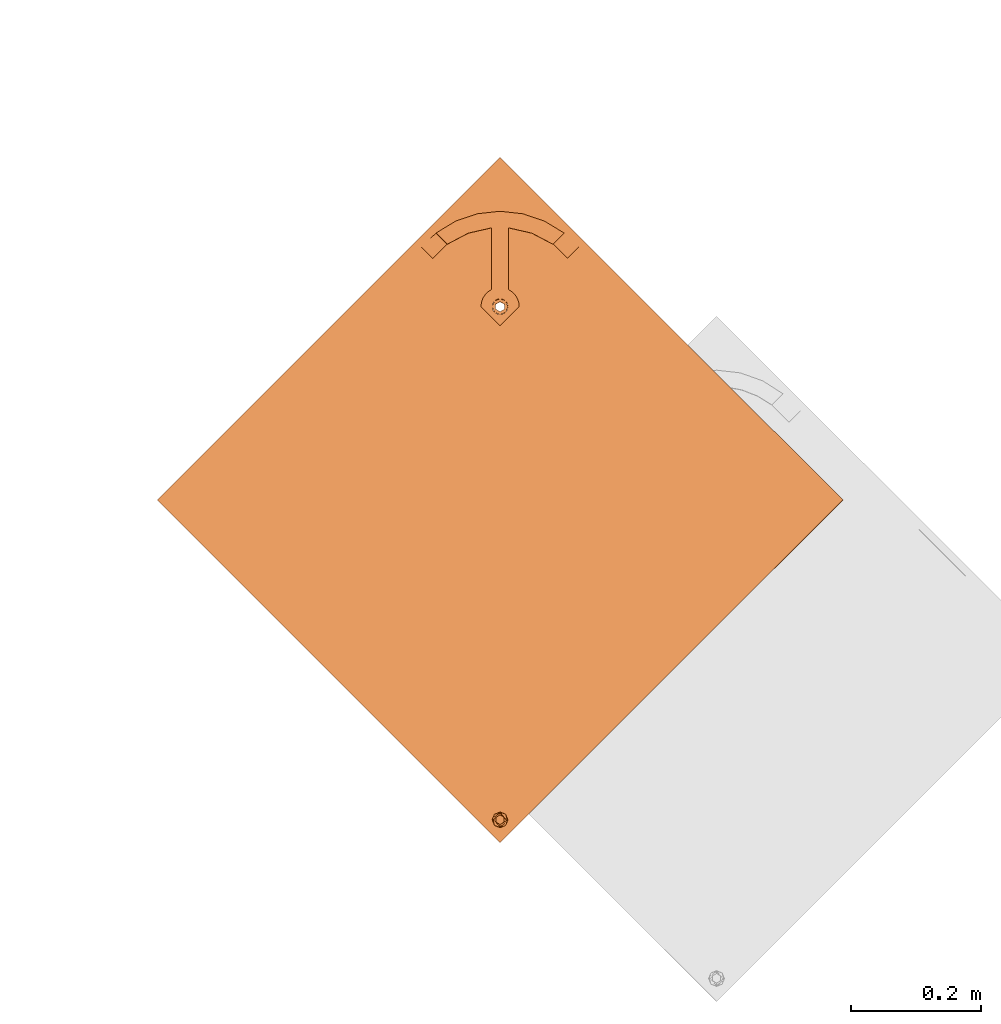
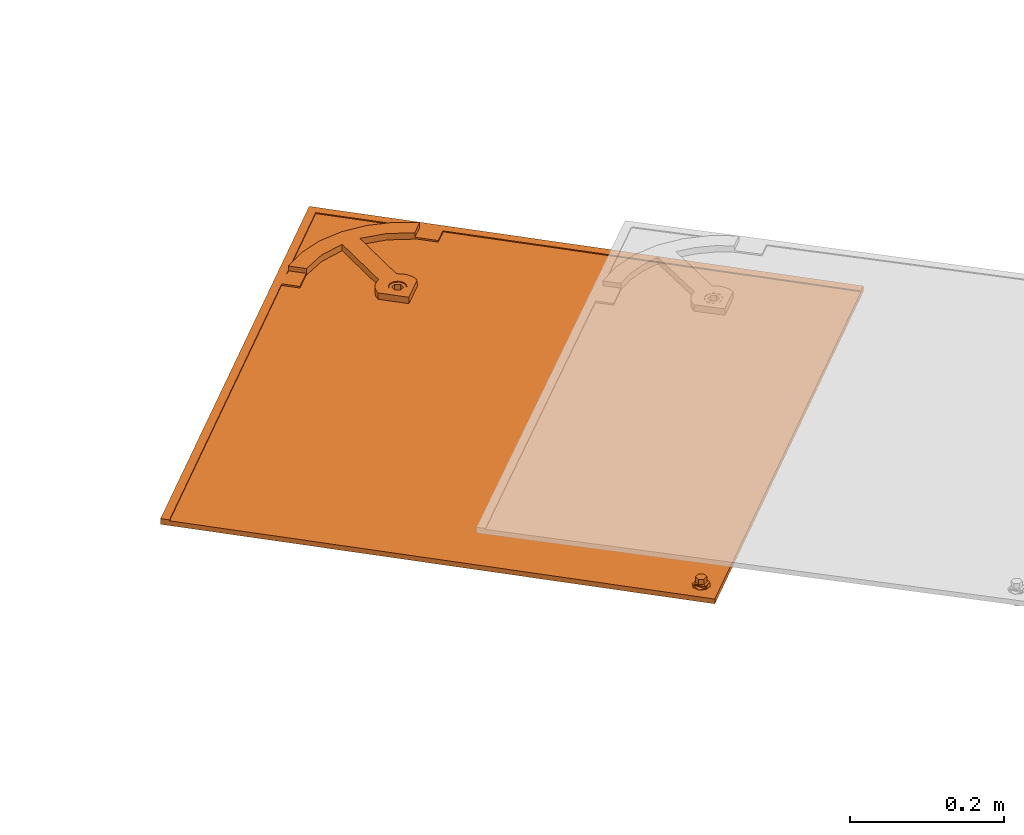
# One storey, part 97 of 151: 1 proxy.
"""IFC2X3 building model written with IfcOpenShell, lengths in millimetres."""

from ifc_helpers import new_model, entity, si_unit, converted_unit, derived_unit, direction, frame, origin, place, context, subcontext, project, spatial, faceted_brep, source, transform, mapped, material, material_list, type_object, type_shapes, element, save


model = new_model("IFC2X3")

# Units and contexts
model_context = context("Model", 3, precision=0.01, world=origin(), true_north=direction((6.12303176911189e-17, 1.0)))
body_context = subcontext(model_context, "Body", "Model", "MODEL_VIEW")
ifc_project = project(units=[si_unit("LENGTHUNIT", "METRE", prefix="MILLI"), si_unit("AREAUNIT", "SQUARE_METRE"), si_unit("VOLUMEUNIT", "CUBIC_METRE"), converted_unit("PLANEANGLEUNIT", "DEGREE", entity("IfcRatioMeasure", 0.0174532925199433), si_unit("PLANEANGLEUNIT", "RADIAN"), dimensions=[0, 0, 0, 0, 0, 0, 0]), si_unit("MASSUNIT", "GRAM", prefix="KILO"), derived_unit("MASSDENSITYUNIT", [(si_unit("MASSUNIT", "GRAM", prefix="KILO"), 1), (si_unit("LENGTHUNIT", "METRE"), -3)]), si_unit("TIMEUNIT", "SECOND"), si_unit("FREQUENCYUNIT", "HERTZ"), si_unit("THERMODYNAMICTEMPERATUREUNIT", "DEGREE_CELSIUS"), derived_unit("THERMALTRANSMITTANCEUNIT", [(si_unit("MASSUNIT", "GRAM", prefix="KILO"), 1), (si_unit("THERMODYNAMICTEMPERATUREUNIT", "KELVIN"), -1), (si_unit("TIMEUNIT", "SECOND"), -3)]), derived_unit("VOLUMETRICFLOWRATEUNIT", [(si_unit("LENGTHUNIT", "METRE"), 3), (si_unit("TIMEUNIT", "SECOND"), -1)]), si_unit("ELECTRICCURRENTUNIT", "AMPERE"), si_unit("ELECTRICVOLTAGEUNIT", "VOLT"), si_unit("POWERUNIT", "WATT"), si_unit("FORCEUNIT", "NEWTON", prefix="KILO"), si_unit("ILLUMINANCEUNIT", "LUX"), si_unit("LUMINOUSFLUXUNIT", "LUMEN"), si_unit("LUMINOUSINTENSITYUNIT", "CANDELA"), derived_unit("USERDEFINED", [(si_unit("MASSUNIT", "GRAM", prefix="KILO"), -1), (si_unit("LENGTHUNIT", "METRE"), -2), (si_unit("TIMEUNIT", "SECOND"), 3), (si_unit("LUMINOUSFLUXUNIT", "LUMEN"), 1)]), derived_unit("LINEARVELOCITYUNIT", [(si_unit("LENGTHUNIT", "METRE"), 1), (si_unit("TIMEUNIT", "SECOND"), -1)]), si_unit("PRESSUREUNIT", "PASCAL"), derived_unit("USERDEFINED", [(si_unit("LENGTHUNIT", "METRE"), -2), (si_unit("MASSUNIT", "GRAM", prefix="KILO"), 1), (si_unit("TIMEUNIT", "SECOND"), -2)])], contexts=[model_context])

# Site, building, storey
site_placement = place(None, origin())
site = spatial("IfcSite", under=ifc_project, at=site_placement, Name="Default", CompositionType="ELEMENT")
building_placement = place(site_placement, origin())
building = spatial("IfcBuilding", under=site, at=building_placement, CompositionType="ELEMENT")
storey_placement = place(building_placement, origin())
storey = spatial("IfcBuildingStorey", under=building, at=storey_placement, Name="Level 1", CompositionType="ELEMENT", Elevation=0.0)

# Proxy
ifc_material_1 = material(Name="Rubber - Sunstyle - Black")
ifc_material_2 = material(Name="Glass - Sunstyle - Tainted Black")
ifc_material_list_1 = material_list([ifc_material_1, ifc_material_2])
ifc_material_list_2 = material_list([ifc_material_1, ifc_material_2])
building_element_proxy_type = type_object("IfcBuildingElementProxyType", Name="Non PV Shingle - Black", PredefinedType="NOTDEFINED", material=ifc_material_list_2)
shared_shape = source(origin(), body_context, "Body", "Brep", [
    faceted_brep([(0.0, -485.159313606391, 4.00636906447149), (-5.77420283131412, -488.492583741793, 4.062193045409), (-5.77420283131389, -488.124274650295, 26.0540623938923), (0.0, -484.791004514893, 25.9982384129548), (-5.77420283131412, -495.159124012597, 4.17384100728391), (-5.7742028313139, -494.790814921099, 26.1657103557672), (0.0, -498.492394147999, 4.2296649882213), (0.0, -498.1240850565, 26.2215343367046), (5.77420283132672, -495.159124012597, 4.17384100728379), (5.77420283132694, -494.790814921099, 26.1657103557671), (5.77420283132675, -488.492583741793, 4.06219304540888), (5.77420283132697, -488.124274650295, 26.0540623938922), (-8.60370416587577, -500.060042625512, 26.2539568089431), (0.0, -503.623313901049, 26.3136327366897), (-12.1674751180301, -491.457544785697, 26.1098863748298), (-8.60370416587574, -482.855046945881, 25.9658159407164), (0.0, -479.291775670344, 25.9061400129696), (8.60370416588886, -482.855046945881, 25.9658159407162), (12.1674751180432, -491.457544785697, 26.1098863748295), (8.60370416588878, -500.060042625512, 26.2539568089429), (-11.3242446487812, -489.162467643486, 28.4227283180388), (-9.75647455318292, -491.386529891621, 30.3502110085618), (0.0, -484.073454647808, 30.9829114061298), (0.0, -482.832957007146, 30.4025647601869), (0.0, -480.675406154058, 29.3931896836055), (0.0, -503.067269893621, 27.5886907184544), (0.0, -502.123693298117, 29.7523951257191), (0.0, -498.67431759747, 31.227439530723), (0.0, -479.804811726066, 27.19910242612), (-6.32324569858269, -495.024101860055, 31.1663074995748), (-6.32324569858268, -487.723670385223, 31.0440434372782), (11.3242446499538, -493.673887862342, 28.4982833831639), (9.84888015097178, -492.460936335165, 30.2713428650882), (6.32324569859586, -487.723670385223, 31.0440434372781), (6.32324569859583, -495.024101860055, 31.1663074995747), (-6.32324569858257, -494.890073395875, 39.1691956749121), (0.0, -498.54028913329, 39.2303277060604), (0.0, -491.239857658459, 39.1080636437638), (-6.32324569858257, -487.589641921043, 39.0469316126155), (6.32324569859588, -494.890073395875, 39.169195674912), (6.32324569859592, -487.589641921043, 39.0469316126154), (0.0, -483.939426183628, 38.9857995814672), (0.0, -491.825853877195, 4.11801702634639)], [[[0, 1, 2, 3]], [[1, 4, 5, 2]], [[4, 6, 7, 5]], [[6, 8, 9, 7]], [[8, 10, 11, 9]], [[10, 0, 3, 11]], [[12, 7, 13]], [[7, 12, 5]], [[14, 5, 12]], [[5, 14, 2]], [[15, 2, 14]], [[3, 2, 15]], [[15, 16, 3]], [[16, 17, 3]], [[11, 3, 17]], [[11, 17, 18]], [[9, 11, 18]], [[18, 19, 9]], [[7, 9, 19]], [[19, 13, 7]], [[20, 14, 12]], [[21, 22, 23, 24]], [[24, 20, 21]], [[25, 20, 12]], [[26, 27, 21]], [[15, 14, 20]], [[12, 13, 25]], [[20, 28, 15]], [[28, 20, 24]], [[21, 27, 29]], [[21, 29, 30]], [[26, 21, 20]], [[20, 25, 26]], [[15, 28, 16]], [[21, 30, 22]], [[31, 18, 17]], [[28, 31, 17]], [[32, 27, 26]], [[26, 31, 32]], [[26, 25, 31]], [[25, 19, 31]], [[17, 16, 28]], [[31, 19, 18]], [[24, 31, 28]], [[33, 34, 32]], [[23, 22, 33]], [[24, 32, 31]], [[27, 32, 34]], [[32, 23, 33]], [[19, 25, 13]], [[32, 24, 23]], [[35, 36, 37]], [[37, 38, 35]], [[36, 39, 37]], [[40, 37, 39]], [[37, 40, 41]], [[37, 41, 38]], [[42, 6, 4]], [[4, 1, 42]], [[1, 0, 42]], [[42, 8, 6]], [[0, 10, 42]], [[8, 42, 10]], [[22, 30, 38, 41]], [[30, 29, 35, 38]], [[29, 27, 36, 35]], [[27, 34, 39, 36]], [[34, 33, 40, 39]], [[33, 22, 41, 40]]]),
    faceted_brep([(0.0, 284.789208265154, 20.3195200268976), (0.0, 289.288576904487, 20.2441667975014), (-8.60370416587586, 288.352479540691, 20.259844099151), (8.60370416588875, 288.352479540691, 20.2598440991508), (6.64022859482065, 293.121777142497, 20.1799702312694), (12.1674751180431, 296.954977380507, 20.1157736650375), (6.64022859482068, 300.788177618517, 20.0515770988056), (8.60370416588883, 305.557475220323, 19.9717032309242), (0.0, 304.621377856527, 19.9873805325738), (0.0, 309.12074649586, 19.9120273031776), (-8.60370416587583, 305.557475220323, 19.9717032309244), (-6.64022859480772, 300.788177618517, 20.0515770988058), (-12.1674751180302, 296.954977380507, 20.1157736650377), (-6.64022859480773, 293.121777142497, 20.1799702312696), (-6.6402282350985, 300.520254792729, 4.05382046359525), (0.0, 304.35345482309, 3.9896239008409), (-6.64022823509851, 292.853854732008, 4.18221358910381), (0.0, 289.020654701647, 4.24641015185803), (6.64022823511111, 292.853854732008, 4.18221358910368), (6.64022823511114, 300.520254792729, 4.05382046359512), (-8.60370416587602, 288.084556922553, 4.26208746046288), (0.0, 284.521285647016, 4.32176338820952), (-12.1674751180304, 296.687054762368, 4.11801702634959), (-8.603704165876, 305.289552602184, 3.97394659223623), (0.0, 308.852823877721, 3.91427066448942), (8.60370416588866, 305.289552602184, 3.97394659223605), (12.167475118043, 296.687054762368, 4.11801702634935), (8.60370416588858, 288.084556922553, 4.26208746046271)], [[[0, 1, 2]], [[1, 0, 3]], [[3, 4, 1]], [[4, 3, 5]], [[6, 4, 5]], [[5, 7, 6]], [[7, 8, 6]], [[8, 7, 9]], [[8, 9, 10]], [[10, 11, 8]], [[12, 11, 10]], [[2, 13, 12]], [[12, 13, 11]], [[13, 2, 1]], [[8, 11, 14, 15]], [[11, 13, 16, 14]], [[13, 1, 17, 16]], [[1, 4, 18, 17]], [[4, 6, 19, 18]], [[6, 8, 15, 19]], [[20, 17, 21]], [[17, 20, 16]], [[22, 16, 20]], [[14, 16, 22]], [[23, 14, 22]], [[15, 14, 23]], [[23, 24, 15]], [[24, 25, 15]], [[19, 15, 25]], [[19, 25, 26]], [[26, 18, 19]], [[26, 27, 18]], [[17, 18, 27]], [[27, 21, 17]], [[24, 23, 10, 9]], [[10, 23, 22, 12]], [[20, 21, 0, 2]], [[20, 2, 12, 22]], [[21, 27, 3, 0]], [[3, 27, 26, 5]], [[25, 24, 9, 7]], [[25, 7, 5, 26]]]),
    faceted_brep([(518.347125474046, -8.50591218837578, 16.4460771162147), (526.831811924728, -0.0212257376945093, 16.3039797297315), (526.831811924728, 0.00389200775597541, 17.8037694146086), (518.347125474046, -8.48079444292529, 17.9458668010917), (0.000322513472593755, 509.695546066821, 7.76749207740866), (-518.346480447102, -8.50591218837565, 16.4460771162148), (-526.831166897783, -0.021225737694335, 16.3039797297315), (0.000322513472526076, 526.662539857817, 7.48333714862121), (0.000322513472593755, 526.687657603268, 8.98312683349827), (-526.831166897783, 0.00389200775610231, 17.8037694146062), (-518.346480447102, -8.48079444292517, 17.9458668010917), (0.000322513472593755, 509.720663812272, 9.26728176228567)], [[[0, 1, 2, 3]], [[1, 0, 4, 5, 6, 7]], [[2, 1, 7, 8]], [[3, 2, 8, 9, 10, 11]], [[0, 3, 11, 4]], [[5, 10, 9, 6]], [[8, 7, 6, 9]], [[4, 11, 10, 5]]]),
    faceted_brep([(0.000322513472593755, 526.662539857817, 7.48333714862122), (-3.10582854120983, 308.054627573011, 11.1444757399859), (0.0, 308.46346032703, 11.1376288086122), (-6.0, 306.855990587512, 11.1645499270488), (3.10582854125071, 308.054627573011, 11.1444757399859), (6.0, 306.855990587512, 11.1645499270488), (8.4852813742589, 304.949234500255, 11.1964833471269), (10.3923048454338, 302.464301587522, 11.2380997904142), (-8.48528137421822, 304.949234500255, 11.1964833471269), (-10.3923048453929, 302.464301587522, 11.2380997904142), (-11.5911099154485, 299.570535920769, 11.2865631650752), (-526.831166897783, -0.0212257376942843, 16.3039797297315), (11.5911099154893, 299.570535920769, 11.2865631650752), (526.831811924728, -0.021225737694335, 16.3039797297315), (-12.0, 296.465142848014, 11.3385707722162), (-11.5911099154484, 293.359749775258, 11.3905783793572), (-10.392304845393, 290.465984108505, 11.4390417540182), (-8.48528137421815, 287.981051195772, 11.4806581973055), (-6.0, 286.074295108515, 11.5125916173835), (-3.10582854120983, 284.875658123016, 11.5326658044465), (-2.07055236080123, -483.623303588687, 24.4031112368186), (-4.0, -484.422394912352, 24.4164940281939), (-5.65685424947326, -485.693565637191, 24.4377829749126), (-6.92820323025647, -487.350187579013, 24.4655272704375), (-7.72740661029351, -489.279364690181, 24.4978361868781), (-8.0, -491.349626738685, 24.5325079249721), (-7.72740661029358, -493.419888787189, 24.5671796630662), (0.000322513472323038, -526.704991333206, 25.1246223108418), (-6.92820323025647, -495.349065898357, 24.5994885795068), (-5.65685424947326, -497.005687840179, 24.6272328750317), (-4.0, -498.276858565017, 24.6485218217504), (-2.0705523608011, -499.075949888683, 24.6619046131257), (0.0, -499.348505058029, 24.6664692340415), (2.07055236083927, -499.075949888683, 24.6619046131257), (4.0, -498.276858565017, 24.6485218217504), (5.65685424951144, -497.005687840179, 24.6272328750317), (6.92820323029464, -495.349065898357, 24.5994885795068), (7.72740661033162, -493.419888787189, 24.5671796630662), (12.0, 296.465142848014, 11.3385707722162), (11.5911099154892, 293.359749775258, 11.3905783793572), (10.3923048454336, 290.465984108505, 11.4390417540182), (8.4852813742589, 287.981051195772, 11.4806581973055), (6.0, 286.074295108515, 11.5125916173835), (3.10582854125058, 284.875658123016, 11.5326658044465), (2.07055236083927, -483.623303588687, 24.4031112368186), (4.0, -484.422394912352, 24.4164940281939), (5.65685424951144, -485.69356563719, 24.4377829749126), (8.0, -491.349626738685, 24.5325079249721), (7.72740661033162, -489.279364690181, 24.4978361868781), (6.92820323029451, -487.350187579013, 24.4655272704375), (0.0, 284.466825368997, 11.5395127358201), (0.0, -483.350748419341, 24.3985466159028), (-526.831166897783, -0.146814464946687, 8.80503130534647), (-6.92820323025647, -487.475776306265, 16.9665788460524), (-7.72740661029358, -489.404953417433, 16.9988877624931), (-5.65685424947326, -485.819154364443, 16.9388345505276), (-8.0, -491.475215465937, 17.0335595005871), (-7.72740661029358, -493.545477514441, 17.0682312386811), (0.000322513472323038, -526.830580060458, 17.6256738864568), (-4.0, -484.547983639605, 16.9175456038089), (-2.07055236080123, -483.748892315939, 16.9041628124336), (-3.10582854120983, 284.750069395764, 4.03371738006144), (-6.0, 285.948706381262, 4.01364319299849), (-8.48528137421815, 287.85546246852, 3.98170977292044), (-10.392304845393, 290.340395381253, 3.94009332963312), (-11.5911099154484, 293.234161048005, 3.89162995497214), (-12.0, 296.339554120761, 3.83962234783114), (-11.5911099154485, 299.444947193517, 3.78761474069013), (0.000322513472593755, 526.536951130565, -0.0156112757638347), (-10.3923048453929, 302.338712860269, 3.73915136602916), (-8.48528137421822, 304.823645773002, 3.69753492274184), (-6.0, 306.73040186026, 3.66560150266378), (-3.10582854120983, 307.929038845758, 3.64552731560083), (0.0, 308.337871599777, 3.63868038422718), (3.10582854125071, 307.929038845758, 3.64552731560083), (6.0, 306.73040186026, 3.66560150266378), (8.4852813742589, 304.823645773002, 3.69753492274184), (10.3923048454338, 302.338712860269, 3.73915136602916), (11.5911099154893, 299.444947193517, 3.78761474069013), (526.831811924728, -0.146814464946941, 8.80503130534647), (7.72740661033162, -493.545477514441, 17.0682312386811), (8.0, -491.475215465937, 17.0335595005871), (7.72740661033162, -489.404953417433, 16.9988877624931), (6.92820323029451, -487.475776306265, 16.9665788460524), (5.65685424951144, -485.819154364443, 16.9388345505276), (4.0, -484.547983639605, 16.9175456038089), (2.07055236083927, -483.748892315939, 16.9041628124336), (3.10582854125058, 284.750069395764, 4.03371738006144), (6.0, 285.948706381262, 4.01364319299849), (12.0, 296.339554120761, 3.83962234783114), (11.5911099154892, 293.234161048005, 3.89162995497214), (10.3923048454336, 290.340395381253, 3.94009332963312), (8.4852813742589, 287.85546246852, 3.98170977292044), (0.0, 284.341236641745, 4.04056431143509), (0.0, -483.476337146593, 16.8995981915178), (-6.92820323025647, -495.474654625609, 17.1005401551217), (-5.65685424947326, -497.131276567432, 17.1282844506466), (-4.0, -498.40244729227, 17.1495733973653), (-2.0705523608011, -499.201538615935, 17.1629561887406), (0.0, -499.474093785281, 17.1675208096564), (2.07055236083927, -499.201538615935, 17.1629561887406), (4.0, -498.40244729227, 17.1495733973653), (5.65685424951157, -497.131276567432, 17.1282844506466), (6.92820323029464, -495.474654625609, 17.1005401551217)], [[[0, 1, 2]], [[1, 0, 3]], [[0, 2, 4]], [[4, 5, 0]], [[5, 6, 0]], [[0, 6, 7]], [[8, 3, 0]], [[9, 8, 0]], [[9, 0, 10]], [[10, 0, 11]], [[12, 0, 7]], [[12, 13, 0]], [[11, 14, 10]], [[14, 11, 15]], [[16, 15, 11]], [[16, 11, 17]], [[18, 17, 11]], [[11, 19, 18]], [[19, 11, 20]], [[21, 20, 11]], [[11, 22, 21]], [[22, 11, 23]], [[23, 11, 24]], [[25, 24, 11]], [[25, 11, 26]], [[26, 11, 27]], [[27, 28, 26]], [[29, 28, 27]], [[30, 29, 27]], [[31, 30, 27]], [[27, 32, 31]], [[32, 27, 33]], [[34, 33, 27]], [[34, 27, 35]], [[36, 35, 27]], [[37, 36, 27]], [[37, 27, 13]], [[12, 38, 13]], [[39, 13, 38]], [[13, 39, 40]], [[13, 40, 41]], [[41, 42, 13]], [[42, 43, 13]], [[13, 43, 44]], [[45, 13, 44]], [[46, 13, 45]], [[47, 37, 13]], [[48, 47, 13]], [[49, 48, 13]], [[46, 49, 13]], [[20, 50, 19]], [[51, 50, 20]], [[44, 50, 51]], [[43, 50, 44]], [[52, 53, 54]], [[53, 52, 55]], [[52, 54, 56]], [[56, 57, 52]], [[52, 57, 58]], [[59, 55, 52]], [[60, 59, 52]], [[60, 52, 61]], [[61, 52, 62]], [[63, 62, 52]], [[64, 63, 52]], [[65, 64, 52]], [[66, 65, 52]], [[66, 52, 67]], [[52, 68, 67]], [[69, 67, 68]], [[70, 69, 68]], [[68, 71, 70]], [[71, 68, 72]], [[72, 68, 73]], [[74, 73, 68]], [[74, 68, 75]], [[76, 75, 68]], [[68, 77, 76]], [[77, 68, 78]], [[68, 79, 78]], [[58, 80, 79]], [[81, 79, 80]], [[81, 82, 79]], [[82, 83, 79]], [[84, 79, 83]], [[79, 84, 85]], [[85, 86, 79]], [[87, 79, 86]], [[87, 88, 79]], [[89, 78, 79]], [[79, 90, 89]], [[90, 79, 91]], [[92, 91, 79]], [[92, 79, 88]], [[93, 60, 61]], [[93, 86, 94]], [[94, 60, 93]], [[87, 86, 93]], [[58, 57, 95]], [[96, 58, 95]], [[96, 97, 58]], [[97, 98, 58]], [[99, 58, 98]], [[58, 99, 100]], [[58, 100, 101]], [[101, 102, 58]], [[102, 103, 58]], [[103, 80, 58]], [[11, 0, 68, 52]], [[27, 11, 52, 58]], [[13, 27, 58, 79]], [[0, 13, 79, 68]], [[25, 56, 54, 24]], [[24, 54, 53, 23]], [[21, 22, 55, 59]], [[55, 22, 23, 53]], [[20, 21, 59, 60]], [[20, 60, 94, 51]], [[51, 94, 86, 44]], [[44, 86, 85, 45]], [[49, 46, 84, 83]], [[84, 46, 45, 85]], [[48, 49, 83, 82]], [[48, 82, 81, 47]], [[47, 81, 80, 37]], [[37, 80, 103, 36]], [[34, 35, 102, 101]], [[102, 35, 36, 103]], [[33, 34, 101, 100]], [[33, 100, 99, 32]], [[32, 99, 98, 31]], [[31, 98, 97, 30]], [[28, 29, 96, 95]], [[96, 29, 30, 97]], [[26, 28, 95, 57]], [[26, 57, 56, 25]], [[14, 66, 67, 10]], [[10, 67, 69, 9]], [[3, 8, 70, 71]], [[70, 8, 9, 69]], [[1, 3, 71, 72]], [[1, 72, 73, 2]], [[2, 73, 74, 4]], [[4, 74, 75, 5]], [[7, 6, 76, 77]], [[76, 6, 5, 75]], [[12, 7, 77, 78]], [[12, 78, 89, 38]], [[38, 89, 90, 39]], [[39, 90, 91, 40]], [[42, 41, 92, 88]], [[40, 91, 92, 41]], [[87, 43, 42, 88]], [[43, 87, 93, 50]], [[50, 93, 61, 19]], [[19, 61, 62, 18]], [[16, 17, 63, 64]], [[63, 17, 18, 62]], [[15, 16, 64, 65]], [[15, 65, 66, 14]]]),
    faceted_brep([(-103.640919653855, 371.082989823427, 12.5892580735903), (-81.5635806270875, 393.15723338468, 12.2195694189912), (-98.1147183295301, 409.705441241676, 11.9424281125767), (-106.2656930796, 403.014562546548, 12.0544836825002), (-113.962762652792, 395.806279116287, 12.1752044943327), (-121.16572423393, 388.605337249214, 12.295802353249), (121.446435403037, 388.886009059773, 12.2911017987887), (110.715435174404, 399.614000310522, 12.1114346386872), (104.744439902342, 405.287275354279, 12.0164213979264), (98.4920378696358, 410.648923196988, 11.9266271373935), (98.074476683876, 410.231479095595, 11.933618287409), (98.234751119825, 410.108922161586, 11.9356708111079), (98.3948723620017, 409.986165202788, 11.9377266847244), (81.6917048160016, 393.285339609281, 12.2174239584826), (103.769043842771, 371.211096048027, 12.5871126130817), (-23.2046504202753, 315.000563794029, 21.029550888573), (-8.48528137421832, 305.451589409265, 21.1894724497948), (-18.7041061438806, 319.633569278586, 20.951959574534), (-10.392304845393, 302.966656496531, 21.2310888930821), (-26.5842195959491, 309.496413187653, 21.1217317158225), (-11.5911099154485, 300.072890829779, 21.2795522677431), (-28.6795527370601, 303.387013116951, 21.2240489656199), (-12.0, 296.967497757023, 21.3315598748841), (-29.3894280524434, 296.967497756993, 21.3315598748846), (-11.5911099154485, 293.862104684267, 21.3835674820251), (-10.392304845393, 290.968339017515, 21.4320308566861), (-8.48528137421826, 288.483406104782, 21.4736472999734), (0.0, 267.58219039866, 21.8236906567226), (-6.0, 286.576650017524, 21.5055807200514), (-3.10582854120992, 285.378013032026, 21.5256549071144), (0.0, 284.969180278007, 21.532501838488), (3.10582854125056, 285.378013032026, 21.5256549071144), (6.0, 286.576650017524, 21.5055807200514), (8.48528137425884, 288.483406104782, 21.4736472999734), (29.389428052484, 296.967497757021, 21.3315598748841), (10.3923048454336, 290.968339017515, 21.4320308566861), (11.5911099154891, 293.862104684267, 21.3835674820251), (12.0, 296.967497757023, 21.3315598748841), (28.6795527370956, 303.387013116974, 21.2240489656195), (11.5911099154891, 300.072890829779, 21.2795522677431), (26.5842195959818, 309.49641318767, 21.1217317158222), (10.3923048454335, 302.966656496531, 21.2310888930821), (23.2046504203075, 315.000563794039, 21.0295508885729), (8.48528137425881, 305.451589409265, 21.1894724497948), (18.7041061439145, 319.633569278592, 20.9519595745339), (6.0, 307.358345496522, 21.1575390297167), (13.3000000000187, 323.171617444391, 20.8927060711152), (3.10582854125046, 308.55698248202, 21.1374648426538), (0.0, 308.965815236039, 21.1306179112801), (-13.2999999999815, 323.171617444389, 20.8927060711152), (-13.2999999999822, 418.050603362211, 19.3037191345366), (13.3000000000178, 418.050603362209, 19.3037191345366), (0.0, 443.522216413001, 18.8771329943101), (34.9852699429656, 439.689674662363, 18.9413185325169), (48.8881158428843, 409.917561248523, 19.4399273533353), (68.3106161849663, 428.373889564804, 19.1308297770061), (81.1868897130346, 392.906184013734, 19.7248255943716), (98.3948723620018, 410.11175393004, 19.4366751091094), (-34.9852699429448, 439.689674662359, 18.941318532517), (-48.8881158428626, 409.917561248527, 19.4399273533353), (-68.3106161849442, 428.373889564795, 19.1308297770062), (-81.1868897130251, 392.906184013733, 19.7248255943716), (-98.3948723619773, 410.111753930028, 19.4366751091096), (-6.0, 307.358345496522, 21.1575390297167), (-3.10582854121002, 308.55698248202, 21.1374648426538), (0.0, 267.414738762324, 11.8250927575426), (0.0, 284.80172864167, 11.533903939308), (3.10582854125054, 285.210561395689, 11.5270570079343), (-3.10582854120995, 285.210561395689, 11.5270570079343), (6.0, 286.409198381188, 11.5069828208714), (8.48528137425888, 288.315954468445, 11.4750494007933), (29.389428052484, 296.800046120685, 11.332961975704), (-6.0, 286.409198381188, 11.5069828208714), (-8.48528137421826, 288.315954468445, 11.4750494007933), (-29.3894280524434, 296.800046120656, 11.3329619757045), (-10.392304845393, 290.800887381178, 11.433432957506), (-11.5911099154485, 293.694653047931, 11.384969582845), (-12.0, 296.800046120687, 11.332961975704), (-28.6795527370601, 303.219561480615, 11.2254510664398), (-11.5911099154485, 299.905439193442, 11.280954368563), (-26.5842195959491, 309.328961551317, 11.1231338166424), (-10.392304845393, 302.799204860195, 11.232490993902), (-23.2046504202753, 314.833112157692, 11.030952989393), (-8.48528137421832, 305.284137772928, 11.1908745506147), (-18.7041061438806, 319.466117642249, 10.9533616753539), (-6.0, 307.190893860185, 11.1589411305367), (-13.2999999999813, 323.004165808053, 10.8941081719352), (-3.10582854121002, 308.389530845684, 11.1388669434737), (0.0, 308.798363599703, 11.1320200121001), (13.3000000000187, 323.004165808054, 10.8941081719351), (13.3000000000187, 417.883151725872, 9.30512123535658), (-13.2999999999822, 417.883151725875, 9.30512123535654), (-0.199443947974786, 443.35464169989, 8.87853715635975), (-35.1150635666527, 439.493384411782, 8.94320360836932), (-48.8881158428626, 409.75010961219, 9.44132945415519), (-68.3708539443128, 428.178324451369, 9.13270270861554), (-81.5627248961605, 393.11622608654, 9.71990561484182), (-81.1868897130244, 392.738732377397, 9.72622769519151), (-98.1143736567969, 409.663842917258, 9.44277420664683), (-106.2656930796, 402.972699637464, 9.5548342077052), (-103.640919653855, 371.041126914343, 10.0896085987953), (-113.962762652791, 395.764416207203, 9.67555501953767), (-121.16572423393, 388.56347434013, 9.79615287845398), (-98.3948723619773, 409.944302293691, 9.43807720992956), (34.7256001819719, 439.579582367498, 8.94176000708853), (48.8881158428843, 409.750109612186, 9.44132945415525), (68.0092206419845, 428.346649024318, 9.12988369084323), (81.6917048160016, 393.243476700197, 9.71777448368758), (98.0744766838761, 410.189616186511, 9.43396881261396), (104.744439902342, 405.245412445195, 9.51677192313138), (98.4920378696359, 410.607060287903, 9.42697766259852), (110.715435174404, 399.572137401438, 9.61178516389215), (103.769043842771, 371.169233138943, 10.0874631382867), (121.446435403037, 388.844146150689, 9.7914523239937), (81.1868897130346, 392.738732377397, 9.7262276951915), (3.10582854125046, 308.389530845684, 11.1388669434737), (6.0, 307.190893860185, 11.1589411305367), (18.7041061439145, 319.466117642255, 10.9533616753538), (8.48528137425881, 305.284137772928, 11.1908745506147), (23.2046504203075, 314.833112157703, 11.0309529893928), (10.3923048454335, 302.799204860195, 11.232490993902), (26.5842195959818, 309.328961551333, 11.1231338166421), (11.5911099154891, 299.905439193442, 11.280954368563), (28.6795527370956, 303.219561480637, 11.2254510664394), (12.0, 296.800046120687, 11.332961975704), (10.3923048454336, 290.800887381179, 11.433432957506), (11.5911099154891, 293.694653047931, 11.384969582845)], [[[0, 1, 2, 3, 4, 5]], [[6, 7, 8, 9, 10, 11, 12, 13, 14]], [[15, 16, 17]], [[18, 16, 15]], [[19, 18, 15]], [[20, 18, 19]], [[19, 21, 20]], [[21, 22, 20]], [[22, 21, 23]], [[24, 22, 23]], [[25, 24, 23]], [[25, 23, 26]], [[23, 27, 26]], [[28, 26, 27]], [[28, 27, 29]], [[27, 30, 29]], [[30, 27, 31]], [[31, 27, 32]], [[33, 32, 27]], [[33, 27, 34]], [[34, 35, 33]], [[36, 35, 34]], [[37, 36, 34]], [[34, 38, 37]], [[39, 37, 38]], [[38, 40, 39]], [[40, 41, 39]], [[41, 40, 42]], [[43, 41, 42]], [[42, 44, 43]], [[45, 43, 44]], [[44, 46, 45]], [[45, 46, 47]], [[47, 46, 48]], [[46, 49, 48]], [[46, 50, 49]], [[46, 51, 50]], [[52, 50, 51]], [[51, 53, 52]], [[51, 54, 53]], [[53, 54, 55]], [[54, 56, 55]], [[56, 57, 55]], [[58, 50, 52]], [[50, 58, 59]], [[60, 59, 58]], [[60, 61, 59]], [[61, 60, 62]], [[63, 49, 17]], [[63, 64, 49]], [[49, 64, 48]], [[63, 17, 16]], [[65, 66, 67]], [[66, 65, 68]], [[65, 67, 69]], [[69, 70, 65]], [[65, 70, 71]], [[72, 68, 65]], [[72, 65, 73]], [[73, 65, 74]], [[74, 75, 73]], [[75, 74, 76]], [[76, 74, 77]], [[78, 77, 74]], [[79, 77, 78]], [[78, 80, 79]], [[79, 80, 81]], [[80, 82, 81]], [[83, 81, 82]], [[84, 83, 82]], [[84, 85, 83]], [[86, 85, 84]], [[86, 87, 85]], [[88, 87, 86]], [[89, 88, 86]], [[89, 86, 90]], [[91, 90, 86]], [[91, 92, 90]], [[92, 91, 93]], [[94, 93, 91]], [[93, 94, 95]], [[94, 96, 95]], [[94, 97, 96]], [[98, 95, 96]], [[99, 98, 96]], [[96, 100, 99]], [[99, 100, 101]], [[102, 101, 100]], [[95, 98, 103]], [[104, 90, 92]], [[90, 104, 105]], [[106, 105, 104]], [[107, 105, 106]], [[106, 108, 107]], [[108, 109, 107]], [[109, 108, 110]], [[111, 107, 109]], [[111, 112, 107]], [[113, 112, 111]], [[107, 114, 105]], [[115, 88, 89]], [[116, 115, 89]], [[116, 89, 117]], [[117, 118, 116]], [[119, 118, 117]], [[119, 120, 118]], [[119, 121, 120]], [[121, 122, 120]], [[122, 121, 123]], [[71, 124, 123]], [[124, 122, 123]], [[71, 70, 125]], [[125, 126, 71]], [[126, 124, 71]], [[49, 50, 91, 86]], [[17, 49, 86, 84]], [[15, 17, 84, 82]], [[82, 80, 19, 15]], [[21, 19, 80, 78]], [[23, 21, 78, 74]], [[27, 23, 74, 65]], [[0, 5, 102, 100]], [[34, 27, 65, 71]], [[6, 14, 112, 113]], [[38, 34, 71, 123]], [[40, 38, 123, 121]], [[121, 119, 42, 40]], [[44, 42, 119, 117]], [[46, 44, 117, 89]], [[51, 46, 89, 90]], [[11, 10, 57]], [[108, 106, 10]], [[10, 106, 55]], [[12, 11, 57]], [[57, 10, 55]], [[106, 53, 55]], [[106, 104, 53]], [[52, 104, 92]], [[92, 93, 58]], [[95, 60, 93]], [[52, 92, 58]], [[95, 62, 60]], [[60, 58, 93]], [[62, 95, 103]], [[104, 52, 53]], [[22, 77, 79, 20]], [[20, 79, 81, 18]], [[63, 16, 83, 85]], [[81, 83, 16, 18]], [[64, 63, 85, 87]], [[88, 48, 64, 87]], [[47, 115, 116, 45]], [[45, 116, 118, 43]], [[39, 41, 120, 122]], [[118, 120, 41, 43]], [[37, 39, 122, 124]], [[47, 48, 88, 115]], [[37, 124, 126, 36]], [[36, 126, 125, 35]], [[32, 33, 70, 69]], [[125, 70, 33, 35]], [[31, 32, 69, 67]], [[66, 30, 31, 67]], [[29, 68, 72, 28]], [[28, 72, 73, 26]], [[24, 25, 75, 76]], [[73, 75, 25, 26]], [[22, 24, 76, 77]], [[29, 30, 66, 68]], [[7, 6, 113, 111]], [[7, 111, 109, 8]], [[109, 110, 9, 8]], [[14, 13, 107, 112]], [[1, 0, 100, 96]], [[2, 98, 3]], [[3, 98, 99]], [[99, 101, 4, 3]], [[5, 4, 101, 102]], [[97, 94, 59, 61]], [[91, 50, 59, 94]], [[90, 105, 54, 51]], [[114, 56, 54, 105]], [[10, 9, 110, 108]], [[62, 2, 1]], [[2, 62, 103]], [[61, 62, 1, 97]], [[103, 98, 2]], [[96, 97, 1]], [[57, 56, 114, 107, 13, 12]]]),
])
type_shapes(building_element_proxy_type, [shared_shape])
proxy_placement = place(storey_placement, frame((-1749.43829653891, 12373.1387530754, 0.0)))
element("IfcBuildingElementProxy", 1, at=proxy_placement, inside=storey, type_object=building_element_proxy_type, material=ifc_material_list_1, Name="Roofing_Panels_SunStyle_Tile_Non-PV-Shingle:Non PV Shingle - Black", ObjectType="Roofing_Panels_SunStyle_Tile_Non-PV-Shingle:Non PV Shingle - Black", context=body_context, shape_type="MappedRepresentation", body=[
    mapped(shared_shape, transform((0.0, 0.0, 0.0), scale=1.0)),
])

save(model, "model.ifc")
